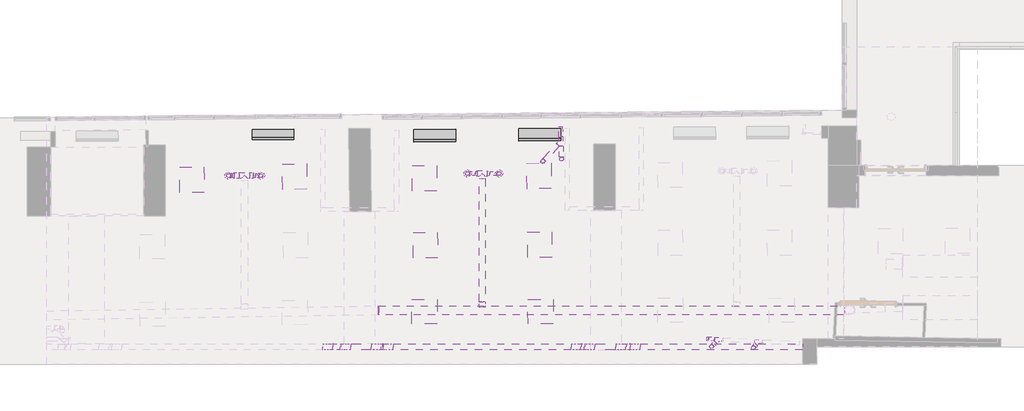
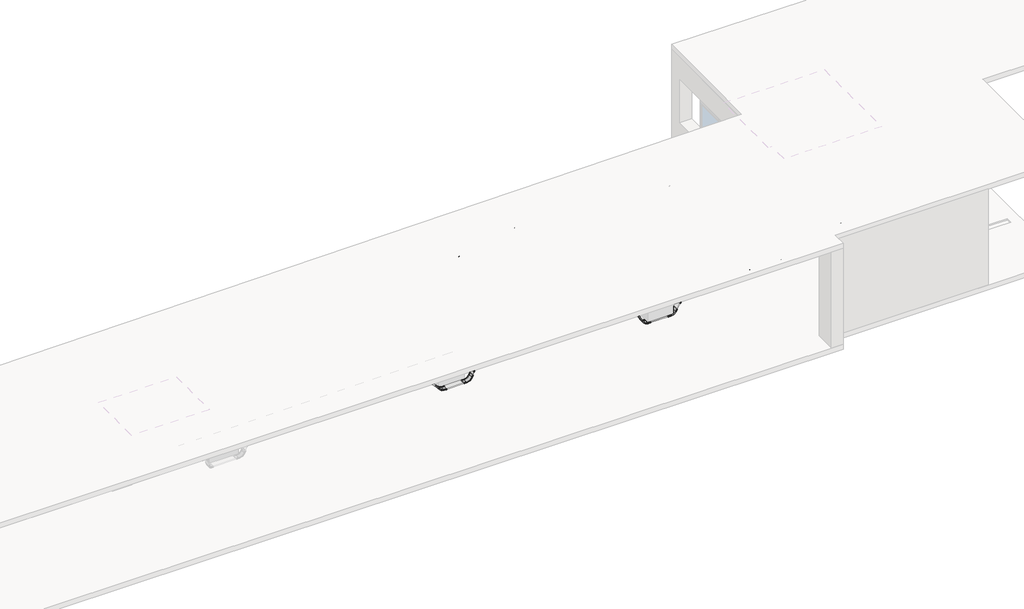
# One storey, part 7 of 8: 12 duct fittings, 12 duct segments, 10 pipe segments, 8 cable carrier fittings, 8 cable carrier segments, 8 light fixtures, 8 pipe fittings, 4 air terminals, 3 proxies.
"""IFC4 building model written with IfcOpenShell, lengths in millimetres."""

from ifc_helpers import new_model, si_unit, point, frame, frame_2d, origin, place, context, project, spatial, polyline, circle_curve, trimmed, segment, composite_curve, outline, extrude, transform, mapped, element, save
from components import air_terminal_3114c91a, proxy_9773a5b9, proxy_798cdd37, channel_vertical_inside_bend_standard_a74fd786, channel_vertical_inside_bend_standard_66c3744e, channel_vertical_inside_bend_standard_6782b2f0, channel_vertical_inside_bend_standard_702a71ab, channel_vertical_outside_bend_standard_74500d54, channel_vertical_outside_bend_standard_cf456a38, channel_vertical_outside_bend_standard_bdbb8690, channel_vertical_outside_bend_standard_53222440, round_elbow_0_55_d_35647d84, round_takeoff_standard_90b5cc55, round_tee_standard_f7545f24, round_transition_length_standard_e66f7e9a, round_union_standard_838016a0, pendant_lighting_fixture_1x4_120v_cc67f8e6, cap_generic_standard_4bc73fea, elbow_generic_standard_87aeffad, elbow_generic_standard_4713954c, tee_generic_standard_53120244, tee_generic_standard_6ef05a17, tee_generic_standard_8743326e

model = new_model("IFC4")

# Units and contexts
model_context = context("Model", 3, world=origin())
ifc_project = project(units=[si_unit("LENGTHUNIT", "METRE", prefix="MILLI")], contexts=[model_context])

# Site, building, storey
site = spatial("IfcSite", under=ifc_project)
building = spatial("IfcBuilding", under=site)
storey = spatial("IfcBuildingStorey", under=building, Name="GFL", Elevation=0.0)

# Air terminals
placement = place(None, origin())
air_terminal_shape = air_terminal_3114c91a(model_context)
element("IfcAirTerminal", 1, ObjectType="Supply Diffuser - Circular - Round Neck - Ceiling Mounted : 6\" Face 4\" Neck", at=placement, inside=storey, context=model_context, shape_type="MappedRepresentation", body=[
    mapped(air_terminal_shape, transform((-33615.8148144, 5697.8498364, 2657.5917846), x_axis=(-1.0, 0.0, 0.0), y_axis=(0.0, 1.0, 0.0), z_axis=(0.0, 0.0, -1.0))),
])
element("IfcAirTerminal", 2, ObjectType="Supply Diffuser - Circular - Round Neck - Ceiling Mounted : 6\" Face 4\" Neck", at=placement, inside=storey, context=model_context, shape_type="MappedRepresentation", body=[
    mapped(air_terminal_shape, transform((-34422.2648144, 5697.8498364, 2657.5917846), x_axis=(-1.0, 0.0, 0.0), y_axis=(0.0, 1.0, 0.0), z_axis=(0.0, 0.0, -1.0))),
])
element("IfcAirTerminal", 3, ObjectType="Supply Diffuser - Circular - Round Neck - Ceiling Mounted : 6\" Face 4\" Neck", at=placement, inside=storey, context=model_context, shape_type="MappedRepresentation", body=[
    mapped(air_terminal_shape, transform((-27671.9348502, 5748.4921507, 2670.2917846), x_axis=(-1.0, 0.0, 0.0), y_axis=(0.0, 1.0, 0.0), z_axis=(0.0, 0.0, -1.0))),
])
element("IfcAirTerminal", 4, ObjectType="Supply Diffuser - Circular - Round Neck - Ceiling Mounted : 6\" Face 4\" Neck", at=placement, inside=storey, context=model_context, shape_type="MappedRepresentation", body=[
    mapped(air_terminal_shape, transform((-28465.6848502, 5748.4921507, 2670.2917846), x_axis=(-1.0, 0.0, 0.0), y_axis=(0.0, 1.0, 0.0), z_axis=(0.0, 0.0, -1.0))),
])

# Proxies
proxy_shape = proxy_9773a5b9(model_context)
element("IfcBuildingElementProxy", 5, Name="Radiator - Hydronic Fin Tube : 0-3/4\" NPT", ObjectType="Radiator - Hydronic Fin Tube : 0-3/4\" NPT", at=placement, inside=storey, context=model_context, shape_type="MappedRepresentation", body=[
    mapped(proxy_shape, transform((-27057.9119864, 7065.1371637, -304.8), x_axis=(-0.9999588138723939, -0.009075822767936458, 0.0), y_axis=(0.009075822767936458, -0.9999588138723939, 0.0), z_axis=(0.0, 0.0, 1.0))),
])
element("IfcBuildingElementProxy", 6, Name="Radiator - Hydronic Fin Tube : 0-3/4\" NPT", ObjectType="Radiator - Hydronic Fin Tube : 0-3/4\" NPT", at=placement, inside=storey, context=model_context, shape_type="MappedRepresentation", body=[
    mapped(proxy_shape, transform((-29676.3734057, 7041.3714931, -304.8), x_axis=(-0.9999588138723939, -0.009075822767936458, 0.0), y_axis=(0.009075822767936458, -0.9999588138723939, 0.0), z_axis=(0.0, 0.0, 1.0))),
])
proxy_2_shape = proxy_798cdd37(model_context)
element("IfcBuildingElementProxy", 7, Name="Radiator - Hydronic Fin Tube : 0-3/8\" NPT", ObjectType="Radiator - Hydronic Fin Tube : 0-3/8\" NPT", at=placement, inside=storey, context=model_context, shape_type="MappedRepresentation", body=[
    mapped(proxy_2_shape, transform((-33707.4389597, 7023.8355343, -304.8), x_axis=(-0.9999588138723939, -0.009075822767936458, 0.0), y_axis=(0.009075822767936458, -0.9999588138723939, 0.0), z_axis=(0.0, 0.0, 1.0))),
])

# Cable carrier fittings
channel_vertical_inside_bend_standard_shape = channel_vertical_inside_bend_standard_a74fd786(model_context)
element("IfcCableCarrierFitting", 8, ObjectType="Channel Vertical Inside Bend : Standard", at=placement, inside=storey, context=model_context, shape_type="MappedRepresentation", body=[
    mapped(channel_vertical_inside_bend_standard_shape, transform((-24597.9779162, 1419.8456465, 2408.433125), x_axis=(-0.5299192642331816, 0.0, -0.8480480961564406), y_axis=(-0.8480480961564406, 0.0, 0.5299192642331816), z_axis=(0.0, 1.0, 0.0))),
])
channel_vertical_inside_bend_standard_2_shape = channel_vertical_inside_bend_standard_66c3744e(model_context)
element("IfcCableCarrierFitting", 9, ObjectType="Channel Vertical Inside Bend : Standard", at=placement, inside=storey, context=model_context, shape_type="MappedRepresentation", body=[
    mapped(channel_vertical_inside_bend_standard_2_shape, transform((-25459.9827427, 1419.8456465, 2408.433125), x_axis=(-1.0, 0.0, 0.0), y_axis=(0.0, 0.0, 1.0), z_axis=(0.0, 1.0, 0.0))),
])
channel_vertical_inside_bend_standard_3_shape = channel_vertical_inside_bend_standard_6782b2f0(model_context)
element("IfcCableCarrierFitting", 10, ObjectType="Channel Vertical Inside Bend : Standard", at=placement, inside=storey, context=model_context, shape_type="MappedRepresentation", body=[
    mapped(channel_vertical_inside_bend_standard_3_shape, transform((-30671.280458, 1419.8456465, 2435.8050028), x_axis=(-0.39073112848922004, 0.0, -0.9205048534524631), y_axis=(-0.9205048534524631, 0.0, 0.39073112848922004), z_axis=(0.0, 1.0, 0.0))),
])
channel_vertical_inside_bend_standard_4_shape = channel_vertical_inside_bend_standard_702a71ab(model_context)
element("IfcCableCarrierFitting", 11, ObjectType="Channel Vertical Inside Bend : Standard", at=placement, inside=storey, context=model_context, shape_type="MappedRepresentation", body=[
    mapped(channel_vertical_inside_bend_standard_4_shape, transform((-31527.5712882, 1419.8456465, 2435.8050028), x_axis=(-1.0, 0.0, 0.0), y_axis=(0.0, 0.0, 1.0), z_axis=(0.0, 1.0, 0.0))),
])
channel_vertical_outside_bend_standard_shape = channel_vertical_outside_bend_standard_74500d54(model_context)
element("IfcCableCarrierFitting", 12, ObjectType="Channel Vertical Outside Bend : Standard", at=placement, inside=storey, context=model_context, shape_type="MappedRepresentation", body=[
    mapped(channel_vertical_outside_bend_standard_shape, transform((-24323.2548215, 1419.8456465, 2848.0819795), x_axis=(-1.0, 0.0, 0.0), y_axis=(0.0, 0.0, -1.0), z_axis=(0.0, -1.0, 0.0))),
])
channel_vertical_outside_bend_standard_2_shape = channel_vertical_outside_bend_standard_cf456a38(model_context)
element("IfcCableCarrierFitting", 13, ObjectType="Channel Vertical Outside Bend : Standard", at=placement, inside=storey, context=model_context, shape_type="MappedRepresentation", body=[
    mapped(channel_vertical_outside_bend_standard_2_shape, transform((-25707.0362079, 1419.8456465, 2836.3422789), x_axis=(-0.4999999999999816, 0.0, 0.8660254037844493), y_axis=(-0.8660254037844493, 0.0, -0.4999999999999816), z_axis=(0.0, -1.0, 0.0))),
])
channel_vertical_outside_bend_standard_3_shape = channel_vertical_outside_bend_standard_bdbb8690(model_context)
element("IfcCableCarrierFitting", 14, ObjectType="Channel Vertical Outside Bend : Standard", at=placement, inside=storey, context=model_context, shape_type="MappedRepresentation", body=[
    mapped(channel_vertical_outside_bend_standard_3_shape, transform((-30495.8781826, 1419.8456465, 2849.0268683), x_axis=(-1.0, 0.0, 0.0), y_axis=(0.0, 0.0, -1.0), z_axis=(0.0, -1.0, 0.0))),
])
channel_vertical_outside_bend_standard_4_shape = channel_vertical_outside_bend_standard_53222440(model_context)
element("IfcCableCarrierFitting", 15, ObjectType="Channel Vertical Outside Bend : Standard", at=placement, inside=storey, context=model_context, shape_type="MappedRepresentation", body=[
    mapped(channel_vertical_outside_bend_standard_4_shape, transform((-31918.4773884, 1419.8456465, 2869.9502098), x_axis=(-0.6691306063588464, 0.0, 0.7431448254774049), y_axis=(-0.7431448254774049, 0.0, -0.6691306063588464), z_axis=(0.0, -1.0, 0.0))),
])

# Cable carrier segments
element("IfcCableCarrierSegment", 16, ObjectType="Channel Cable Tray", at=placement, inside=storey, context=model_context, shape_type="SweptSolid", body=[
    extrude(outline(polyline([(-20105.8145713, 1496.0456465), (-20105.8145713, 1343.6456465), (-24155.5383971, 1343.6456465), (-24155.5383971, 1496.0456465), (-20105.8145713, 1496.0456465)])), frame((0.0, 0.0, 2835.3819795), z_axis=(0.0, 0.0, 1.0), x_axis=(1.0, 0.0, 0.0)), (0.0, 0.0, 1.0), 25.4),
])
element("IfcCableCarrierSegment", 17, ObjectType="Channel Cable Tray", at=placement, inside=storey, context=model_context, shape_type="SweptSolid", body=[
    extrude(outline(polyline([(12.7, -1.0510841), (12.7, -153.4510841), (-12.7, -153.4510841), (-12.7, -1.0510841), (12.7, -1.0510841)])), frame((-24509.101752, 1497.0967306, 2550.6647194), z_axis=(0.5299192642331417, 0.0, 0.8480480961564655), x_axis=(0.8480480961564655, 0.0, -0.5299192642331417)), (0.0, 0.0, 1.0), 182.9915855),
])
element("IfcCableCarrierSegment", 18, ObjectType="Channel Cable Tray", at=placement, inside=storey, context=model_context, shape_type="SweptSolid", body=[
    extrude(outline(polyline([(-24765.6943406, 1496.0456465), (-24765.6943406, 1343.6456465), (-25288.4622132, 1343.6456465), (-25288.4622132, 1496.0456465), (-24765.6943406, 1496.0456465)])), frame((0.0, 0.0, 2395.733125), z_axis=(0.0, 0.0, 1.0), x_axis=(1.0, 0.0, 0.0)), (0.0, 0.0, 1.0), 25.4),
])
element("IfcCableCarrierSegment", 19, ObjectType="Channel Cable Tray", at=placement, inside=storey, context=model_context, shape_type="SweptSolid", body=[
    extrude(outline(polyline([(-12.7, 153.4510841), (12.7, 153.4510841), (12.7, 1.0510841), (-12.7, 1.0510841), (-12.7, 153.4510841)])), frame((-25545.7430074, 1342.5945624, 2556.9742607), z_axis=(-0.49999999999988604, 0.0, 0.8660254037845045), x_axis=(0.8660254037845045, 0.0, 0.49999999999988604)), (0.0, 0.0, 1.0), 151.0658716),
])
element("IfcCableCarrierSegment", 20, ObjectType="Channel Cable Tray", at=placement, inside=storey, context=model_context, shape_type="SweptSolid", body=[
    extrude(outline(polyline([(0.0, -152.4), (0.0, 0.0), (4431.8622916, 0.0), (4431.8622916, -152.4), (0.0, -152.4)])), frame((-25878.5930865, 1343.6456465, 2823.642331), z_axis=(0.0028621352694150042, 0.0, 0.9999959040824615), x_axis=(-0.9999959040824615, 0.0, 0.0028621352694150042)), (0.0, 0.0, 1.0), 25.4),
])
element("IfcCableCarrierSegment", 21, ObjectType="Channel Cable Tray", at=placement, inside=storey, context=model_context, shape_type="SweptSolid", body=[
    extrude(outline(polyline([(12.7, -1.0510841), (12.7, -153.4510841), (-12.7, -153.4510841), (-12.7, -1.0510841), (12.7, -1.0510841)])), frame((-30598.8087009, 1497.0967306, 2606.5377633), z_axis=(0.390731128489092, 0.0, 0.9205048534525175), x_axis=(0.9205048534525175, 0.0, -0.390731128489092)), (0.0, 0.0, 1.0), 77.9532495),
])
element("IfcCableCarrierSegment", 22, ObjectType="Channel Cable Tray", at=placement, inside=storey, context=model_context, shape_type="SweptSolid", body=[
    extrude(outline(polyline([(-30856.7577642, 1496.0456465), (-30856.7577642, 1343.6456465), (-31377.8640323, 1343.6456465), (-31377.8640323, 1496.0456465), (-30856.7577642, 1496.0456465)])), frame((0.0, 0.0, 2423.1050028), z_axis=(0.0, 0.0, 1.0), x_axis=(1.0, 0.0, 0.0)), (0.0, 0.0, 1.0), 25.4),
])
element("IfcCableCarrierSegment", 23, ObjectType="Channel Cable Tray", at=placement, inside=storey, context=model_context, shape_type="SweptSolid", body=[
    extrude(outline(polyline([(-12.7, 153.4510841), (12.6999999, 153.4510841), (12.6999999, 1.0510841), (-12.7, 1.0510841), (-12.7, 153.4510841)])), frame((-31627.7449951, 1342.5945624, 2547.0591754), z_axis=(-0.6691306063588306, 0.0, 0.7431448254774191), x_axis=(0.7431448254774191, 0.0, 0.6691306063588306)), (0.0, 0.0, 1.0), 284.7854881),
])

# Duct fittings
round_elbow_0_55_d_shape = round_elbow_0_55_d_35647d84(model_context)
element("IfcDuctFitting", 24, ObjectType="Round Elbow : 0.55 D", at=placement, inside=storey, context=model_context, shape_type="MappedRepresentation", body=[
    mapped(round_elbow_0_55_d_shape, transform((-33615.8148144, 5697.8498364, 2890.0792846), x_axis=(1.0, 0.0, 0.0), y_axis=(0.0, 0.0, -1.0), z_axis=(0.0, 1.0, 0.0))),
])
element("IfcDuctFitting", 25, ObjectType="Round Elbow : 0.55 D", at=placement, inside=storey, context=model_context, shape_type="MappedRepresentation", body=[
    mapped(round_elbow_0_55_d_shape, transform((-34422.2648144, 5697.8498364, 2890.0792846), x_axis=(-1.0, 0.0, 0.0), y_axis=(0.0, 0.0, -1.0), z_axis=(0.0, -1.0, 0.0))),
])
element("IfcDuctFitting", 26, ObjectType="Round Elbow : 0.55 D", at=placement, inside=storey, context=model_context, shape_type="MappedRepresentation", body=[
    mapped(round_elbow_0_55_d_shape, transform((-27671.9348502, 5748.4921507, 2896.4292846), x_axis=(1.0, 0.0, 0.0), y_axis=(0.0, 0.0, -1.0), z_axis=(0.0, 1.0, 0.0))),
])
element("IfcDuctFitting", 27, ObjectType="Round Elbow : 0.55 D", at=placement, inside=storey, context=model_context, shape_type="MappedRepresentation", body=[
    mapped(round_elbow_0_55_d_shape, transform((-28465.6848502, 5748.4921507, 2896.4292846), x_axis=(-1.0, 0.0, 0.0), y_axis=(0.0, 0.0, -1.0), z_axis=(0.0, -1.0, 0.0))),
])
round_takeoff_standard_shape = round_takeoff_standard_90b5cc55(model_context)
element("IfcDuctFitting", 28, ObjectType="Round Takeoff : Standard", at=placement, inside=storey, context=model_context, shape_type="MappedRepresentation", body=[
    mapped(round_takeoff_standard_shape, transform((-28091.0348502, 2443.9931594, 2896.4292846), x_axis=(0.0, 1.0, 0.0), y_axis=(-1.0, 0.0, 0.0), z_axis=(0.0, 0.0, 1.0))),
])
round_tee_standard_shape = round_tee_standard_f7545f24(model_context)
element("IfcDuctFitting", 29, ObjectType="Round Tee : Standard", at=placement, inside=storey, context=model_context, shape_type="MappedRepresentation", body=[
    mapped(round_tee_standard_shape, transform((-28091.0348502, 5748.4921507, 2896.4292846), x_axis=(1.0, 0.0, 0.0), y_axis=(0.0, 1.0, 0.0), z_axis=(0.0, 0.0, 1.0))),
])
element("IfcDuctFitting", 30, ObjectType="Round Tee : Standard", at=placement, inside=storey, context=model_context, shape_type="MappedRepresentation", body=[
    mapped(round_tee_standard_shape, transform((-34022.2148144, 5697.8498364, 2890.0792846), x_axis=(1.0, 0.0, 0.0), y_axis=(0.0, 1.0, 0.0), z_axis=(0.0, 0.0, 1.0))),
])
round_transition_length_standard_shape = round_transition_length_standard_e66f7e9a(model_context)
element("IfcDuctFitting", 31, ObjectType="Round Transition - Length : Standard", at=placement, inside=storey, context=model_context, shape_type="MappedRepresentation", body=[
    mapped(round_transition_length_standard_shape, transform((-28218.0348502, 5748.4921507, 2896.4292846), x_axis=(-1.0, 0.0, 0.0), y_axis=(0.0, -1.0, 0.0), z_axis=(0.0, 0.0, 1.0))),
])
element("IfcDuctFitting", 32, ObjectType="Round Transition - Length : Standard", at=placement, inside=storey, context=model_context, shape_type="MappedRepresentation", body=[
    mapped(round_transition_length_standard_shape, transform((-27964.0348502, 5748.4921507, 2896.4292846), x_axis=(1.0, 0.0, 0.0), y_axis=(0.0, 1.0, 0.0), z_axis=(0.0, 0.0, 1.0))),
])
element("IfcDuctFitting", 33, ObjectType="Round Transition - Length : Standard", at=placement, inside=storey, context=model_context, shape_type="MappedRepresentation", body=[
    mapped(round_transition_length_standard_shape, transform((-33799.9648144, 5697.8498364, 2890.0792846), x_axis=(1.0, 0.0, 0.0), y_axis=(0.0, 1.0, 0.0), z_axis=(0.0, 0.0, 1.0))),
])
element("IfcDuctFitting", 34, ObjectType="Round Transition - Length : Standard", at=placement, inside=storey, context=model_context, shape_type="MappedRepresentation", body=[
    mapped(round_transition_length_standard_shape, transform((-34282.5648144, 5697.8498364, 2890.0792846), x_axis=(-1.0, 0.0, 0.0), y_axis=(0.0, -1.0, 0.0), z_axis=(0.0, 0.0, 1.0))),
])
round_union_standard_shape = round_union_standard_838016a0(model_context)
element("IfcDuctFitting", 35, ObjectType="Round Union : Standard", at=placement, inside=storey, context=model_context, shape_type="MappedRepresentation", body=[
    mapped(round_union_standard_shape, transform((-30686.4208785, 2329.8696846, 2890.0792846), x_axis=(1.0, 0.0, 0.0), y_axis=(0.0, 1.0, 0.0), z_axis=(0.0, 0.0, 1.0))),
])

# Duct segments
element("IfcDuctSegment", 36, ObjectType="Default_Tap", at=placement, inside=storey, context=model_context, shape_type="SweptSolid", body=[
    extrude(outline(composite_curve([segment(trimmed(circle_curve(frame_2d((2896.4292846, -28091.0348502)), 76.2), [point((2896.4292846, -28014.8348502))], [point((2972.6292846, -28091.0348502))], False, "CARTESIAN"), True, "CONTINUOUS"), segment(trimmed(circle_curve(frame_2d((2896.4292846, -28091.0348502)), 76.2), [point((2972.6292846, -28091.0348502))], [point((2896.4292846, -28167.2348502))], False, "CARTESIAN"), True, "CONTINUOUS"), segment(trimmed(circle_curve(frame_2d((2896.4292846, -28091.0348502)), 76.2), [point((2896.4292846, -28167.2348502))], [point((2820.2292846, -28091.0348502))], False, "CARTESIAN"), True, "CONTINUOUS"), segment(trimmed(circle_curve(frame_2d((2896.4292846, -28091.0348502)), 76.2), [point((2820.2292846, -28091.0348502))], [point((2896.4292846, -28014.8348502))], False, "CARTESIAN"), True, "CONTINUOUS")], self_intersect=False)), frame((0.0, 2545.5931594, 0.0), z_axis=(0.0, 1.0, 0.0), x_axis=(0.0, 0.0, 1.0)), (0.0, 0.0, 1.0), 3075.8989912),
])
element("IfcDuctSegment", 37, ObjectType="Default_Tap", at=placement, inside=storey, context=model_context, shape_type="SweptSolid", body=[
    extrude(outline(composite_curve([segment(trimmed(circle_curve(frame_2d((5748.4921507, 2896.4292846)), 50.8), [point((5799.2921507, 2896.4292846))], [point((5748.4921507, 2845.6292846))], False, "CARTESIAN"), True, "CONTINUOUS"), segment(trimmed(circle_curve(frame_2d((5748.4921507, 2896.4292846)), 50.8), [point((5748.4921507, 2845.6292846))], [point((5697.6921507, 2896.4292846))], False, "CARTESIAN"), True, "CONTINUOUS"), segment(trimmed(circle_curve(frame_2d((5748.4921507, 2896.4292846)), 50.8), [point((5697.6921507, 2896.4292846))], [point((5748.4921507, 2947.2292846))], False, "CARTESIAN"), True, "CONTINUOUS"), segment(trimmed(circle_curve(frame_2d((5748.4921507, 2896.4292846)), 50.8), [point((5748.4921507, 2947.2292846))], [point((5799.2921507, 2896.4292846))], False, "CARTESIAN"), True, "CONTINUOUS")], self_intersect=False)), frame((-28409.8048502, 0.0, 0.0), z_axis=(1.0, 0.0, 0.0), x_axis=(0.0, 1.0, 0.0)), (0.0, 0.0, 1.0), 140.97),
])
element("IfcDuctSegment", 38, ObjectType="Default_Tap", at=placement, inside=storey, context=model_context, shape_type="SweptSolid", body=[
    extrude(outline(composite_curve([segment(trimmed(circle_curve(frame_2d((-28465.6848502, 5748.4921507)), 50.8), [point((-28465.6848502, 5799.2921507))], [point((-28414.8848502, 5748.4921507))], False, "CARTESIAN"), True, "CONTINUOUS"), segment(trimmed(circle_curve(frame_2d((-28465.6848502, 5748.4921507)), 50.8), [point((-28414.8848502, 5748.4921507))], [point((-28465.6848502, 5697.6921507))], False, "CARTESIAN"), True, "CONTINUOUS"), segment(trimmed(circle_curve(frame_2d((-28465.6848502, 5748.4921507)), 50.8), [point((-28465.6848502, 5697.6921507))], [point((-28516.4848502, 5748.4921507))], False, "CARTESIAN"), True, "CONTINUOUS"), segment(trimmed(circle_curve(frame_2d((-28465.6848502, 5748.4921507)), 50.8), [point((-28516.4848502, 5748.4921507))], [point((-28465.6848502, 5799.2921507))], False, "CARTESIAN"), True, "CONTINUOUS")], self_intersect=False)), frame((0.0, 0.0, 2746.4917846), z_axis=(0.0, 0.0, 1.0), x_axis=(1.0, 0.0, 0.0)), (0.0, 0.0, 1.0), 94.0575),
])
element("IfcDuctSegment", 39, ObjectType="Default_Tap", at=placement, inside=storey, context=model_context, shape_type="SweptSolid", body=[
    extrude(outline(composite_curve([segment(trimmed(circle_curve(frame_2d((2329.8696846, 2890.0792846)), 114.3), [point((2215.5696846, 2890.0792846))], [point((2329.8696846, 3004.3792846))], False, "CARTESIAN"), True, "CONTINUOUS"), segment(trimmed(circle_curve(frame_2d((2329.8696846, 2890.0792846)), 114.3), [point((2329.8696846, 3004.3792846))], [point((2444.1696846, 2890.0792846))], False, "CARTESIAN"), True, "CONTINUOUS"), segment(trimmed(circle_curve(frame_2d((2329.8696846, 2890.0792846)), 114.3), [point((2444.1696846, 2890.0792846))], [point((2329.8696846, 2775.7792846))], False, "CARTESIAN"), True, "CONTINUOUS"), segment(trimmed(circle_curve(frame_2d((2329.8696846, 2890.0792846)), 114.3), [point((2329.8696846, 2775.7792846))], [point((2215.5696846, 2890.0792846))], False, "CARTESIAN"), True, "CONTINUOUS")], self_intersect=False)), frame((-30680.0708785, 0.0, 0.0), z_axis=(1.0, 0.0, 0.0), x_axis=(0.0, 1.0, 0.0)), (0.0, 0.0, 1.0), 11617.6948466),
])
element("IfcDuctSegment", 40, ObjectType="Default_Tap", at=placement, inside=storey, context=model_context, shape_type="SweptSolid", body=[
    extrude(outline(composite_curve([segment(trimmed(circle_curve(frame_2d((5697.8498364, 2890.0792846)), 50.8), [point((5748.6498364, 2890.0792846))], [point((5697.8498364, 2839.2792846))], False, "CARTESIAN"), True, "CONTINUOUS"), segment(trimmed(circle_curve(frame_2d((5697.8498364, 2890.0792846)), 50.8), [point((5697.8498364, 2839.2792846))], [point((5647.0498364, 2890.0792846))], False, "CARTESIAN"), True, "CONTINUOUS"), segment(trimmed(circle_curve(frame_2d((5697.8498364, 2890.0792846)), 50.8), [point((5647.0498364, 2890.0792846))], [point((5697.8498364, 2940.8792846))], False, "CARTESIAN"), True, "CONTINUOUS"), segment(trimmed(circle_curve(frame_2d((5697.8498364, 2890.0792846)), 50.8), [point((5697.8498364, 2940.8792846))], [point((5748.6498364, 2890.0792846))], False, "CARTESIAN"), True, "CONTINUOUS")], self_intersect=False)), frame((-34366.3848144, 0.0, 0.0), z_axis=(1.0, 0.0, 0.0), x_axis=(0.0, 1.0, 0.0)), (0.0, 0.0, 1.0), 33.02),
])
element("IfcDuctSegment", 41, ObjectType="Default_Tap", at=placement, inside=storey, context=model_context, shape_type="SweptSolid", body=[
    extrude(outline(composite_curve([segment(trimmed(circle_curve(frame_2d((5697.8498364, 2890.0792846)), 76.2), [point((5774.0498364, 2890.0792846))], [point((5697.8498364, 2813.8792846))], False, "CARTESIAN"), True, "CONTINUOUS"), segment(trimmed(circle_curve(frame_2d((5697.8498364, 2890.0792846)), 76.2), [point((5697.8498364, 2813.8792846))], [point((5621.6498364, 2890.0792846))], False, "CARTESIAN"), True, "CONTINUOUS"), segment(trimmed(circle_curve(frame_2d((5697.8498364, 2890.0792846)), 76.2), [point((5621.6498364, 2890.0792846))], [point((5697.8498364, 2966.2792846))], False, "CARTESIAN"), True, "CONTINUOUS"), segment(trimmed(circle_curve(frame_2d((5697.8498364, 2890.0792846)), 76.2), [point((5697.8498364, 2966.2792846))], [point((5774.0498364, 2890.0792846))], False, "CARTESIAN"), True, "CONTINUOUS")], self_intersect=False)), frame((-34282.5648144, 0.0, 0.0), z_axis=(1.0, 0.0, 0.0), x_axis=(0.0, 1.0, 0.0)), (0.0, 0.0, 1.0), 133.35),
])
element("IfcDuctSegment", 42, ObjectType="Default_Tap", at=placement, inside=storey, context=model_context, shape_type="SweptSolid", body=[
    extrude(outline(composite_curve([segment(trimmed(circle_curve(frame_2d((-34422.2648144, 5697.8498364)), 50.8), [point((-34422.2648144, 5748.6498364))], [point((-34371.4648144, 5697.8498364))], False, "CARTESIAN"), True, "CONTINUOUS"), segment(trimmed(circle_curve(frame_2d((-34422.2648144, 5697.8498364)), 50.8), [point((-34371.4648144, 5697.8498364))], [point((-34422.2648144, 5647.0498364))], False, "CARTESIAN"), True, "CONTINUOUS"), segment(trimmed(circle_curve(frame_2d((-34422.2648144, 5697.8498364)), 50.8), [point((-34422.2648144, 5647.0498364))], [point((-34473.0648144, 5697.8498364))], False, "CARTESIAN"), True, "CONTINUOUS"), segment(trimmed(circle_curve(frame_2d((-34422.2648144, 5697.8498364)), 50.8), [point((-34473.0648144, 5697.8498364))], [point((-34422.2648144, 5748.6498364))], False, "CARTESIAN"), True, "CONTINUOUS")], self_intersect=False)), frame((0.0, 0.0, 2733.7917846), z_axis=(0.0, 0.0, 1.0), x_axis=(1.0, 0.0, 0.0)), (0.0, 0.0, 1.0), 100.4075),
])
element("IfcDuctSegment", 43, ObjectType="Default_Tee", at=placement, inside=storey, context=model_context, shape_type="SweptSolid", body=[
    extrude(outline(composite_curve([segment(trimmed(circle_curve(frame_2d((5748.4921507, 2896.4292846)), 50.8), [point((5697.6921507, 2896.4292846))], [point((5748.4921507, 2947.2292846))], False, "CARTESIAN"), True, "CONTINUOUS"), segment(trimmed(circle_curve(frame_2d((5748.4921507, 2896.4292846)), 50.8), [point((5748.4921507, 2947.2292846))], [point((5799.2921507, 2896.4292846))], False, "CARTESIAN"), True, "CONTINUOUS"), segment(trimmed(circle_curve(frame_2d((5748.4921507, 2896.4292846)), 50.8), [point((5799.2921507, 2896.4292846))], [point((5748.4921507, 2845.6292846))], False, "CARTESIAN"), True, "CONTINUOUS"), segment(trimmed(circle_curve(frame_2d((5748.4921507, 2896.4292846)), 50.8), [point((5748.4921507, 2845.6292846))], [point((5697.6921507, 2896.4292846))], False, "CARTESIAN"), True, "CONTINUOUS")], self_intersect=False)), frame((-27913.2348502, 0.0, 0.0), z_axis=(1.0, 0.0, 0.0), x_axis=(0.0, 1.0, 0.0)), (0.0, 0.0, 1.0), 185.42),
])
element("IfcDuctSegment", 44, ObjectType="Default_Tee", at=placement, inside=storey, context=model_context, shape_type="SweptSolid", body=[
    extrude(outline(composite_curve([segment(trimmed(circle_curve(frame_2d((-27671.9348502, 5748.4921507)), 50.8), [point((-27671.9348502, 5799.2921507))], [point((-27621.1348502, 5748.4921507))], False, "CARTESIAN"), True, "CONTINUOUS"), segment(trimmed(circle_curve(frame_2d((-27671.9348502, 5748.4921507)), 50.8), [point((-27621.1348502, 5748.4921507))], [point((-27671.9348502, 5697.6921507))], False, "CARTESIAN"), True, "CONTINUOUS"), segment(trimmed(circle_curve(frame_2d((-27671.9348502, 5748.4921507)), 50.8), [point((-27671.9348502, 5697.6921507))], [point((-27722.7348502, 5748.4921507))], False, "CARTESIAN"), True, "CONTINUOUS"), segment(trimmed(circle_curve(frame_2d((-27671.9348502, 5748.4921507)), 50.8), [point((-27722.7348502, 5748.4921507))], [point((-27671.9348502, 5799.2921507))], False, "CARTESIAN"), True, "CONTINUOUS")], self_intersect=False)), frame((0.0, 0.0, 2746.4917846), z_axis=(0.0, 0.0, 1.0), x_axis=(1.0, 0.0, 0.0)), (0.0, 0.0, 1.0), 94.0575),
])
element("IfcDuctSegment", 45, ObjectType="Default_Tee", at=placement, inside=storey, context=model_context, shape_type="SweptSolid", body=[
    extrude(outline(composite_curve([segment(trimmed(circle_curve(frame_2d((5697.8498364, 2890.0792846)), 50.8), [point((5647.0498364, 2890.0792846))], [point((5697.8498364, 2940.8792846))], False, "CARTESIAN"), True, "CONTINUOUS"), segment(trimmed(circle_curve(frame_2d((5697.8498364, 2890.0792846)), 50.8), [point((5697.8498364, 2940.8792846))], [point((5748.6498364, 2890.0792846))], False, "CARTESIAN"), True, "CONTINUOUS"), segment(trimmed(circle_curve(frame_2d((5697.8498364, 2890.0792846)), 50.8), [point((5748.6498364, 2890.0792846))], [point((5697.8498364, 2839.2792846))], False, "CARTESIAN"), True, "CONTINUOUS"), segment(trimmed(circle_curve(frame_2d((5697.8498364, 2890.0792846)), 50.8), [point((5697.8498364, 2839.2792846))], [point((5647.0498364, 2890.0792846))], False, "CARTESIAN"), True, "CONTINUOUS")], self_intersect=False)), frame((-33749.1648144, 0.0, 0.0), z_axis=(1.0, 0.0, 0.0), x_axis=(0.0, 1.0, 0.0)), (0.0, 0.0, 1.0), 77.47),
])
element("IfcDuctSegment", 46, ObjectType="Default_Tee", at=placement, inside=storey, context=model_context, shape_type="SweptSolid", body=[
    extrude(outline(composite_curve([segment(trimmed(circle_curve(frame_2d((5697.8498364, 2890.0792846)), 76.2), [point((5621.6498364, 2890.0792846))], [point((5697.8498364, 2966.2792846))], False, "CARTESIAN"), True, "CONTINUOUS"), segment(trimmed(circle_curve(frame_2d((5697.8498364, 2890.0792846)), 76.2), [point((5697.8498364, 2966.2792846))], [point((5774.0498364, 2890.0792846))], False, "CARTESIAN"), True, "CONTINUOUS"), segment(trimmed(circle_curve(frame_2d((5697.8498364, 2890.0792846)), 76.2), [point((5774.0498364, 2890.0792846))], [point((5697.8498364, 2813.8792846))], False, "CARTESIAN"), True, "CONTINUOUS"), segment(trimmed(circle_curve(frame_2d((5697.8498364, 2890.0792846)), 76.2), [point((5697.8498364, 2813.8792846))], [point((5621.6498364, 2890.0792846))], False, "CARTESIAN"), True, "CONTINUOUS")], self_intersect=False)), frame((-33895.2148144, 0.0, 0.0), z_axis=(1.0, 0.0, 0.0), x_axis=(0.0, 1.0, 0.0)), (0.0, 0.0, 1.0), 95.25),
])
element("IfcDuctSegment", 47, ObjectType="Default_Tee", at=placement, inside=storey, context=model_context, shape_type="SweptSolid", body=[
    extrude(outline(composite_curve([segment(trimmed(circle_curve(frame_2d((-33615.8148144, 5697.8498364)), 50.8), [point((-33615.8148144, 5748.6498364))], [point((-33565.0148144, 5697.8498364))], False, "CARTESIAN"), True, "CONTINUOUS"), segment(trimmed(circle_curve(frame_2d((-33615.8148144, 5697.8498364)), 50.8), [point((-33565.0148144, 5697.8498364))], [point((-33615.8148144, 5647.0498364))], False, "CARTESIAN"), True, "CONTINUOUS"), segment(trimmed(circle_curve(frame_2d((-33615.8148144, 5697.8498364)), 50.8), [point((-33615.8148144, 5647.0498364))], [point((-33666.6148144, 5697.8498364))], False, "CARTESIAN"), True, "CONTINUOUS"), segment(trimmed(circle_curve(frame_2d((-33615.8148144, 5697.8498364)), 50.8), [point((-33666.6148144, 5697.8498364))], [point((-33615.8148144, 5748.6498364))], False, "CARTESIAN"), True, "CONTINUOUS")], self_intersect=False)), frame((0.0, 0.0, 2733.7917846), z_axis=(0.0, 0.0, 1.0), x_axis=(1.0, 0.0, 0.0)), (0.0, 0.0, 1.0), 100.4075),
])

# Light fixtures
pendant_lighting_fixture_1x4_120v_shape = pendant_lighting_fixture_1x4_120v_cc67f8e6(model_context)
element("IfcLightFixture", 48, ObjectType="Pendant Lighting Fixture : 1x4 - 120V", at=placement, inside=storey, context=model_context, shape_type="MappedRepresentation", body=[
    mapped(pendant_lighting_fixture_1x4_120v_shape, transform((-35638.0745517, 5487.4470843, 3028.95), x_axis=(0.9999512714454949, 0.00987191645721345, 0.0), y_axis=(0.00987191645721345, -0.9999512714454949, 0.0), z_axis=(0.0, 0.0, -1.0))),
])
element("IfcLightFixture", 49, ObjectType="Pendant Lighting Fixture : 1x4 - 120V", at=placement, inside=storey, context=model_context, shape_type="MappedRepresentation", body=[
    mapped(pendant_lighting_fixture_1x4_120v_shape, transform((-33076.2247101, 5567.6431156, 3028.95), x_axis=(0.9999512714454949, 0.00987191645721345, 0.0), y_axis=(0.00987191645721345, -0.9999512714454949, 0.0), z_axis=(0.0, 0.0, -1.0))),
])
element("IfcLightFixture", 50, ObjectType="Pendant Lighting Fixture : 1x4 - 120V", at=placement, inside=storey, context=model_context, shape_type="MappedRepresentation", body=[
    mapped(pendant_lighting_fixture_1x4_120v_shape, transform((-29835.4817817, 5526.099699, 3028.95), x_axis=(0.9999512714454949, 0.00987191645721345, 0.0), y_axis=(0.00987191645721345, -0.9999512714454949, 0.0), z_axis=(0.0, 0.0, -1.0))),
])
element("IfcLightFixture", 51, ObjectType="Pendant Lighting Fixture : 1x4 - 120V", at=placement, inside=storey, context=model_context, shape_type="MappedRepresentation", body=[
    mapped(pendant_lighting_fixture_1x4_120v_shape, transform((-29815.9169372, 3856.4218288, 3028.95), x_axis=(0.9999512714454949, 0.00987191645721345, 0.0), y_axis=(0.00987191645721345, -0.9999512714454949, 0.0), z_axis=(0.0, 0.0, -1.0))),
])
element("IfcLightFixture", 52, ObjectType="Pendant Lighting Fixture : 1x4 - 120V", at=placement, inside=storey, context=model_context, shape_type="MappedRepresentation", body=[
    mapped(pendant_lighting_fixture_1x4_120v_shape, transform((-29636.6149731, 2605.3138912, 3028.95), x_axis=(0.009871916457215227, -0.9999512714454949, 0.0), y_axis=(-0.9999512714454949, -0.009871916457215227, 0.0), z_axis=(0.0, 0.0, -1.0))),
])
element("IfcLightFixture", 53, ObjectType="Pendant Lighting Fixture : 1x4 - 120V", at=placement, inside=storey, context=model_context, shape_type="MappedRepresentation", body=[
    mapped(pendant_lighting_fixture_1x4_120v_shape, transform((-26743.0498706, 2605.1817508, 3028.95), x_axis=(0.009871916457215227, -0.9999512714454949, 0.0), y_axis=(-0.9999512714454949, -0.009871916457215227, 0.0), z_axis=(0.0, 0.0, -1.0))),
])
element("IfcLightFixture", 54, ObjectType="Pendant Lighting Fixture : 1x4 - 120V", at=placement, inside=storey, context=model_context, shape_type="MappedRepresentation", body=[
    mapped(pendant_lighting_fixture_1x4_120v_shape, transform((-26964.2445045, 3870.0032757, 3028.95), x_axis=(0.9999512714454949, 0.00987191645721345, 0.0), y_axis=(0.00987191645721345, -0.9999512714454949, 0.0), z_axis=(0.0, 0.0, -1.0))),
])
element("IfcLightFixture", 55, ObjectType="Pendant Lighting Fixture : 1x4 - 120V", at=placement, inside=storey, context=model_context, shape_type="MappedRepresentation", body=[
    mapped(pendant_lighting_fixture_1x4_120v_shape, transform((-26980.0445045, 5583.8532757, 3028.95), x_axis=(0.9999512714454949, 0.00987191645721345, 0.0), y_axis=(0.00987191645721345, -0.9999512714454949, 0.0), z_axis=(0.0, 0.0, -1.0))),
])

# Pipe fittings
cap_generic_standard_shape = cap_generic_standard_4bc73fea(model_context)
element("IfcPipeFitting", 56, ObjectType="Cap - Generic : Standard", at=placement, inside=storey, context=model_context, shape_type="MappedRepresentation", body=[
    mapped(cap_generic_standard_shape, transform((-22452.1567477, 1620.5204002, 2913.3641129), x_axis=(-0.9984774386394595, 0.0523279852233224, 0.017452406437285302), y_axis=(-0.0523359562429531, -0.9986295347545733, 0.0), z_axis=(0.01742848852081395, -0.0009133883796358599, 0.9998476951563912))),
])
elbow_generic_standard_shape = elbow_generic_standard_87aeffad(model_context)
element("IfcPipeFitting", 57, ObjectType="Elbow - Generic : Standard", at=placement, inside=storey, context=model_context, shape_type="MappedRepresentation", body=[
    mapped(elbow_generic_standard_shape, transform((-26116.2847684, 6105.3197482, 2867.5551931), x_axis=(0.03676642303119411, -0.9993238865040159, 0.0), y_axis=(0.0, 0.0, 1.0), z_axis=(-0.9993238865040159, -0.03676642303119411, 0.0))),
])
element("IfcPipeFitting", 58, ObjectType="Elbow - Generic : Standard", at=placement, inside=storey, context=model_context, shape_type="MappedRepresentation", body=[
    mapped(elbow_generic_standard_shape, transform((-21336.4617948, 1399.5438616, 2891.5798469), x_axis=(-0.6427876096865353, -0.7660444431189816, 0.0), y_axis=(0.0, 0.0, 1.0000000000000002), z_axis=(-0.7660444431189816, 0.6427876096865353, 0.0))),
])
element("IfcPipeFitting", 59, ObjectType="Elbow - Generic : Standard", at=placement, inside=storey, context=model_context, shape_type="MappedRepresentation", body=[
    mapped(elbow_generic_standard_shape, transform((-22378.8310371, 1427.6597345, 2908.9431299), x_axis=(-0.7071067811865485, -0.7071067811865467, 0.0), y_axis=(0.0, 0.0, 1.0000000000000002), z_axis=(-0.7071067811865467, 0.7071067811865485, 0.0))),
])
elbow_generic_standard_2_shape = elbow_generic_standard_4713954c(model_context)
element("IfcPipeFitting", 60, ObjectType="Elbow - Generic : Standard", at=placement, inside=storey, context=model_context, shape_type="MappedRepresentation", body=[
    mapped(elbow_generic_standard_2_shape, transform((-26575.9384696, 6059.1656371, 2867.5551931), x_axis=(-0.6691306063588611, -0.7431448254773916, 0.0), y_axis=(0.0, 0.0, 1.0), z_axis=(-0.7431448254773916, 0.6691306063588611, 0.0))),
])
tee_generic_standard_shape = tee_generic_standard_53120244(model_context)
element("IfcPipeFitting", 61, ObjectType="Tee - Generic : Standard", at=placement, inside=storey, context=model_context, shape_type="MappedRepresentation", body=[
    mapped(tee_generic_standard_shape, transform((-26132.6978969, 6551.4341643, 2867.5551931), x_axis=(0.03676642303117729, -0.9993238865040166, 0.0), y_axis=(0.9993238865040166, 0.03676642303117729, 0.0), z_axis=(0.0, 0.0, 1.0))),
])
tee_generic_standard_2_shape = tee_generic_standard_6ef05a17(model_context)
element("IfcPipeFitting", 62, ObjectType="Tee - Generic : Standard", at=placement, inside=storey, context=model_context, shape_type="MappedRepresentation", body=[
    mapped(tee_generic_standard_2_shape, transform((-21205.8473525, 1555.2040925, 2891.5798469), x_axis=(-0.9984774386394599, 0.052327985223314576, 0.017452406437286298), y_axis=(0.05256061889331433, 0.9985311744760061, 0.013148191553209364), z_axis=(-0.016738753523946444, 0.014045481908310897, -0.9997612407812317))),
])
tee_generic_standard_3_shape = tee_generic_standard_8743326e(model_context)
element("IfcPipeFitting", 63, ObjectType="Tee - Generic : Standard", at=placement, inside=storey, context=model_context, shape_type="MappedRepresentation", body=[
    mapped(tee_generic_standard_3_shape, transform((-22199.2259147, 1607.2648569, 2908.9431299), x_axis=(-0.9984774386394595, 0.0523279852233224, 0.017452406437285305), y_axis=(0.05260333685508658, 0.9984919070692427, 0.0157098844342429), z_axis=(-0.016604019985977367, 0.016604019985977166, -0.9997242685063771))),
])

# Pipe segments
element("IfcPipeSegment", 64, ObjectType="Default", at=placement, inside=storey, context=model_context, shape_type="SweptSolid", body=[
    extrude(outline(composite_curve([segment(trimmed(circle_curve(frame_2d((0.0, 50.8)), 50.8), [point((50.8000001, 50.8))], [point((0.0, 0.0))], False, "CARTESIAN"), True, "CONTINUOUS"), segment(trimmed(circle_curve(frame_2d((0.0, 50.8)), 50.8), [point((0.0, 0.0))], [point((-50.8, 50.8))], False, "CARTESIAN"), True, "CONTINUOUS"), segment(trimmed(circle_curve(frame_2d((0.0, 50.8)), 50.8), [point((-50.8, 50.8))], [point((0.0, 101.6))], False, "CARTESIAN"), True, "CONTINUOUS"), segment(trimmed(circle_curve(frame_2d((0.0, 50.8)), 50.8), [point((0.0, 101.6))], [point((50.8000001, 50.8))], False, "CARTESIAN"), True, "CONTINUOUS")], self_intersect=False)), frame((-26136.8760731, 6664.9984136, 2918.3551931), z_axis=(-0.03676642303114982, 0.9993238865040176, 0.0), x_axis=(0.9993238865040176, 0.03676642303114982, 0.0)), (0.0, 0.0, 1.0), 253.5357082),
])
element("IfcPipeSegment", 65, ObjectType="Default", at=placement, inside=storey, context=model_context, shape_type="SweptSolid", body=[
    extrude(outline(composite_curve([segment(trimmed(circle_curve(frame_2d((-26116.2847684, 6105.3197482)), 50.8), [point((-26167.0847684, 6105.3197482))], [point((-26116.2847684, 6156.1197482))], False, "CARTESIAN"), True, "CONTINUOUS"), segment(trimmed(circle_curve(frame_2d((-26116.2847684, 6105.3197482)), 50.8), [point((-26116.2847684, 6156.1197482))], [point((-26065.4847684, 6105.3197482))], False, "CARTESIAN"), True, "CONTINUOUS"), segment(trimmed(circle_curve(frame_2d((-26116.2847684, 6105.3197482)), 50.8), [point((-26065.4847684, 6105.3197482))], [point((-26116.2847684, 6054.5197482))], False, "CARTESIAN"), True, "CONTINUOUS"), segment(trimmed(circle_curve(frame_2d((-26116.2847684, 6105.3197482)), 50.8), [point((-26116.2847684, 6054.5197482))], [point((-26167.0847684, 6105.3197482))], False, "CARTESIAN"), True, "CONTINUOUS")], self_intersect=False)), frame((0.0, 0.0, 2919.9426931), z_axis=(0.0, 0.0, 1.0), x_axis=(1.0, 0.0, 0.0)), (0.0, 0.0, 1.0), 80.9625),
])
element("IfcPipeSegment", 66, ObjectType="Default", at=placement, inside=storey, context=model_context, shape_type="SweptSolid", body=[
    extrude(outline(composite_curve([segment(trimmed(circle_curve(frame_2d((0.0, 50.8)), 50.8), [point((50.8, 50.8))], [point((0.0, 0.0))], False, "CARTESIAN"), True, "CONTINUOUS"), segment(trimmed(circle_curve(frame_2d((0.0, 50.8)), 50.8), [point((0.0, 0.0))], [point((-50.8000001, 50.8))], False, "CARTESIAN"), True, "CONTINUOUS"), segment(trimmed(circle_curve(frame_2d((0.0, 50.8)), 50.8), [point((-50.8000001, 50.8))], [point((0.0, 101.6))], False, "CARTESIAN"), True, "CONTINUOUS"), segment(trimmed(circle_curve(frame_2d((0.0, 50.8)), 50.8), [point((0.0, 101.6))], [point((50.8, 50.8))], False, "CARTESIAN"), True, "CONTINUOUS")], self_intersect=False)), frame((-26118.2108694, 6157.6718283, 2918.3551931), z_axis=(-0.036766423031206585, 0.9993238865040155, 0.0), x_axis=(0.9993238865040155, 0.036766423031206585, 0.0)), (0.0, 0.0, 1.0), 280.3876605),
])
element("IfcPipeSegment", 67, ObjectType="Default", at=placement, inside=storey, context=model_context, shape_type="SweptSolid", body=[
    extrude(outline(composite_curve([segment(trimmed(circle_curve(frame_2d((0.0, -50.8)), 50.8), [point((-50.8, -50.8))], [point((0.0, 0.0))], False, "CARTESIAN"), True, "CONTINUOUS"), segment(trimmed(circle_curve(frame_2d((0.0, -50.8)), 50.8), [point((0.0, 0.0))], [point((50.8, -50.8))], False, "CARTESIAN"), True, "CONTINUOUS"), segment(trimmed(circle_curve(frame_2d((0.0, -50.8)), 50.8), [point((50.8, -50.8))], [point((0.0, -101.6))], False, "CARTESIAN"), True, "CONTINUOUS"), segment(trimmed(circle_curve(frame_2d((0.0, -50.8)), 50.8), [point((0.0, -101.6))], [point((-50.8, -50.8))], False, "CARTESIAN"), True, "CONTINUOUS")], self_intersect=False)), frame((-26546.5246043, 6091.833044, 2816.7551931), z_axis=(0.6691306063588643, 0.7431448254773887, 0.0), x_axis=(0.7431448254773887, -0.6691306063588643, 0.0)), (0.0, 0.0, 1.0), 504.8132264),
])
element("IfcPipeSegment", 68, ObjectType="Default", at=placement, inside=storey, context=model_context, shape_type="SweptSolid", body=[
    extrude(outline(composite_curve([segment(trimmed(circle_curve(frame_2d((0.0, 50.7999999)), 50.8), [point((-38.009208, 84.5037106))], [point((33.7037106, 88.809208))], False, "CARTESIAN"), True, "CONTINUOUS"), segment(trimmed(circle_curve(frame_2d((0.0, 50.7999999)), 50.8), [point((33.7037106, 88.809208))], [point((38.0092081, 17.0962894))], False, "CARTESIAN"), True, "CONTINUOUS"), segment(trimmed(circle_curve(frame_2d((0.0, 50.7999999)), 50.8), [point((38.0092081, 17.0962894))], [point((-33.7037105, 12.7907919))], False, "CARTESIAN"), True, "CONTINUOUS"), segment(trimmed(circle_curve(frame_2d((0.0, 50.7999999)), 50.8), [point((-33.7037105, 12.7907919))], [point((-38.009208, 84.5037106))], False, "CARTESIAN"), True, "CONTINUOUS")], self_intersect=False)), frame((-26581.0461338, 6003.1235964, 2904.2454695), z_axis=(-0.11619331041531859, -0.1290457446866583, 0.984807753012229), x_axis=(0.9932266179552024, -0.015096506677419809, 0.11520842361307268)), (0.0, 0.0, 1.0), 83.0416681),
])
element("IfcPipeSegment", 69, ObjectType="Default", at=placement, inside=storey, context=model_context, shape_type="SweptSolid", body=[
    extrude(outline(composite_curve([segment(trimmed(circle_curve(frame_2d((0.0, 50.8)), 50.8), [point((48.1977594, 66.8504203))], [point((16.0504204, 2.6022407))], False, "CARTESIAN"), True, "CONTINUOUS"), segment(trimmed(circle_curve(frame_2d((0.0, 50.8)), 50.8), [point((16.0504204, 2.6022407))], [point((-48.1977593, 34.7495797))], False, "CARTESIAN"), True, "CONTINUOUS"), segment(trimmed(circle_curve(frame_2d((0.0, 50.8)), 50.8), [point((-48.1977593, 34.7495797))], [point((-16.0504203, 98.9977593))], False, "CARTESIAN"), True, "CONTINUOUS"), segment(trimmed(circle_curve(frame_2d((0.0, 50.8)), 50.8), [point((-16.0504203, 98.9977593))], [point((48.1977594, 66.8504203))], False, "CARTESIAN"), True, "CONTINUOUS")], self_intersect=False)), frame((-22302.4513488, 1596.6022256, 2958.9378279), z_axis=(-0.9984774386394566, 0.05232798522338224, 0.01745240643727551), x_axis=(0.05516162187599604, 0.947185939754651, 0.3159050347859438)), (0.0, 0.0, 1.0), 149.9336821),
])
element("IfcPipeSegment", 70, ObjectType="Default", at=placement, inside=storey, context=model_context, shape_type="SweptSolid", body=[
    extrude(outline(composite_curve([segment(trimmed(circle_curve(frame_2d((0.0, -50.8)), 50.8), [point((-50.8, -50.8))], [point((0.0, 0.0))], False, "CARTESIAN"), True, "CONTINUOUS"), segment(trimmed(circle_curve(frame_2d((0.0, -50.8)), 50.8), [point((0.0, 0.0))], [point((50.8, -50.8))], False, "CARTESIAN"), True, "CONTINUOUS"), segment(trimmed(circle_curve(frame_2d((0.0, -50.8)), 50.8), [point((50.8, -50.8))], [point((0.0, -101.6))], False, "CARTESIAN"), True, "CONTINUOUS"), segment(trimmed(circle_curve(frame_2d((0.0, -50.8)), 50.8), [point((0.0, -101.6))], [point((-50.8, -50.8))], False, "CARTESIAN"), True, "CONTINUOUS")], self_intersect=False)), frame((-21302.7877589, 1439.6750149, 2840.7798469), z_axis=(0.6427876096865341, 0.7660444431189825, 0.0), x_axis=(0.7660444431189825, -0.6427876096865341, 0.0)), (0.0, 0.0, 1.0), 58.4888275),
])
element("IfcPipeSegment", 71, ObjectType="Default", at=placement, inside=storey, context=model_context, shape_type="SweptSolid", body=[
    extrude(outline(composite_curve([segment(trimmed(circle_curve(frame_2d((-21336.4617948, 1399.5438616)), 50.8), [point((-21387.2617948, 1399.5438616))], [point((-21336.4617948, 1450.3438616))], False, "CARTESIAN"), True, "CONTINUOUS"), segment(trimmed(circle_curve(frame_2d((-21336.4617948, 1399.5438616)), 50.8), [point((-21336.4617948, 1450.3438616))], [point((-21285.6617948, 1399.5438616))], False, "CARTESIAN"), True, "CONTINUOUS"), segment(trimmed(circle_curve(frame_2d((-21336.4617948, 1399.5438616)), 50.8), [point((-21285.6617948, 1399.5438616))], [point((-21336.4617948, 1348.7438616))], False, "CARTESIAN"), True, "CONTINUOUS"), segment(trimmed(circle_curve(frame_2d((-21336.4617948, 1399.5438616)), 50.8), [point((-21336.4617948, 1348.7438616))], [point((-21387.2617948, 1399.5438616))], False, "CARTESIAN"), True, "CONTINUOUS")], self_intersect=False)), frame((0.0, 0.0, 2943.9673469), z_axis=(0.0, 0.0, 1.0), x_axis=(1.0, 0.0, 0.0)), (0.0, 0.0, 1.0), 87.3125),
])
element("IfcPipeSegment", 72, ObjectType="Default", at=placement, inside=storey, context=model_context, shape_type="SweptSolid", body=[
    extrude(outline(composite_curve([segment(trimmed(circle_curve(frame_2d((0.0, -50.8)), 50.8), [point((-50.8, -50.8))], [point((0.0, 0.0))], False, "CARTESIAN"), True, "CONTINUOUS"), segment(trimmed(circle_curve(frame_2d((0.0, -50.8)), 50.8), [point((0.0, 0.0))], [point((50.8, -50.8))], False, "CARTESIAN"), True, "CONTINUOUS"), segment(trimmed(circle_curve(frame_2d((0.0, -50.8)), 50.8), [point((50.8, -50.8))], [point((0.0, -101.6))], False, "CARTESIAN"), True, "CONTINUOUS"), segment(trimmed(circle_curve(frame_2d((0.0, -50.8)), 50.8), [point((0.0, -101.6))], [point((-50.8, -50.8))], False, "CARTESIAN"), True, "CONTINUOUS")], self_intersect=False)), frame((-22341.7874806, 1464.703291, 2858.1431299), z_axis=(0.7071067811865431, 0.707106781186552, 0.0), x_axis=(0.707106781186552, -0.7071067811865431, 0.0)), (0.0, 0.0, 1.0), 98.2296591),
])
element("IfcPipeSegment", 73, ObjectType="Default", at=placement, inside=storey, context=model_context, shape_type="SweptSolid", body=[
    extrude(outline(composite_curve([segment(trimmed(circle_curve(frame_2d((-22378.8310371, 1427.6597345)), 50.8), [point((-22429.6310371, 1427.6597345))], [point((-22378.8310371, 1478.4597345))], False, "CARTESIAN"), True, "CONTINUOUS"), segment(trimmed(circle_curve(frame_2d((-22378.8310371, 1427.6597345)), 50.8), [point((-22378.8310371, 1478.4597345))], [point((-22328.0310371, 1427.6597345))], False, "CARTESIAN"), True, "CONTINUOUS"), segment(trimmed(circle_curve(frame_2d((-22378.8310371, 1427.6597345)), 50.8), [point((-22328.0310371, 1427.6597345))], [point((-22378.8310371, 1376.8597345))], False, "CARTESIAN"), True, "CONTINUOUS"), segment(trimmed(circle_curve(frame_2d((-22378.8310371, 1427.6597345)), 50.8), [point((-22378.8310371, 1376.8597345))], [point((-22429.6310371, 1427.6597345))], False, "CARTESIAN"), True, "CONTINUOUS")], self_intersect=False)), frame((0.0, 0.0, 2961.3306299), z_axis=(0.0, 0.0, 1.0), x_axis=(1.0, 0.0, 0.0)), (0.0, 0.0, 1.0), 68.2625),
])

save(model, "model.ifc")
